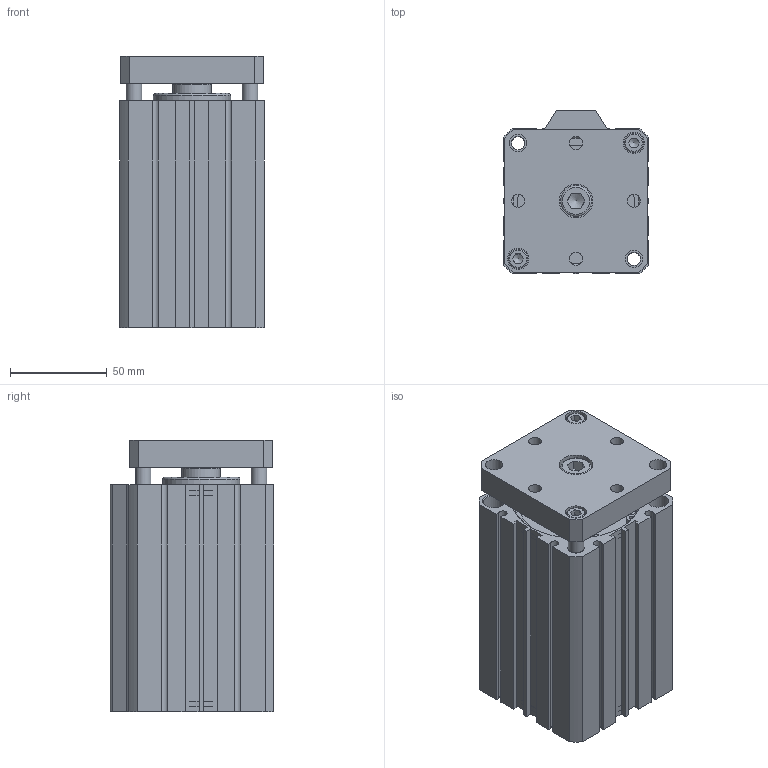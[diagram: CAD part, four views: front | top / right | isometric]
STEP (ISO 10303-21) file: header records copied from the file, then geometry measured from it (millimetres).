
FILE_DESCRIPTION((''),'2;1');
FILE_NAME('I:\3D電子目錄\氣缸\JTD\JTD\JTD63\JTD63x85.stp','2007-08-14T19:52:32',('Administrator'),(''),'Autodesk Inventor 11','Autodesk Inventor 11','');
FILE_SCHEMA(('AUTOMOTIVE_DESIGN { 1 0 10303 214 1 1 1 1 }'));
Length unit declared in the file: millimetre
Products named in the file (5): JTD63; R 形環 65; ISO 4762 M10 x 16; ISO 4762 M6 x 20
Assembly tree (6 placements, depth 2):
  JTD63
    JTD63
    R 形環 65  x2
    ISO 4762 M10 x 16
    ISO 4762 M6 x 20  x2
Bounding box: 75 x 84.5 x 140.5 mm (x, y, z)
Volume: 684620.2 mm3; surface area: 105668.3 mm2
Topology: 7 solids, 7 shells, 232 faces, 563 edges, 372 vertices
Faces by surface type: plane 136, cylinder 61, bspline 16, cone 14, torus 5
Full cylindrical faces by diameter (mm): 2.7 x4, 3 x2, 6 x2, 6.8 x2, 8 x2, 8.5 x2, 9 x2, 10 x3, 11 x4, 16 x1, 20 x1, 40 x1, 47 x1, 65 x4, 68 x2
Entity records: 6069 total; most frequent: CARTESIAN_POINT 1279, DIRECTION 964, ORIENTED_EDGE 866, EDGE_CURVE 433, AXIS2_PLACEMENT_3D 342, VERTEX_POINT 321, EDGE_LOOP 316, VECTOR 280
